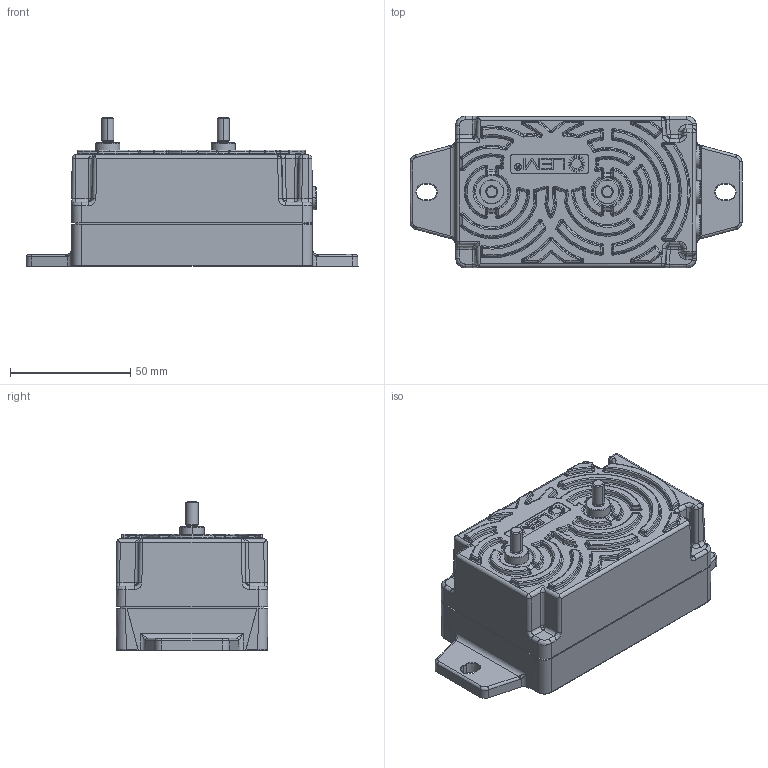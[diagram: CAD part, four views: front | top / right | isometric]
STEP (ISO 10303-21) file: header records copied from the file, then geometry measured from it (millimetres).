
FILE_DESCRIPTION(('CoCreate Modeling STEP Export'),'2;1');
FILE_NAME('DVL 1000_SP5.stp','2013-01-18T13:38:33',(''),(''),'CoCreate Modeling STEP processor for AP214 (Solid Model)','CoCreate Modeling 17.0B 09-Oct-2010 (C) Parametric Technology GmbH','');
FILE_SCHEMA(('AUTOMOTIVE_DESIGN { 1 0 10303 214 1 1 1 1 }'));
Products named in the file (1): BLACKBOX_DVL_ENCOMB_TYPE_D
Bounding box: 137.83 x 63.01 x 61.8 mm (x, y, z)
Volume: 291885.2 mm3; surface area: 35012.8 mm2
Topology: 1 solids, 1 shells, 1831 faces, 4478 edges, 2675 vertices
Faces by surface type: bspline 832, plane 457, cylinder 222, torus 165, cone 118, sphere 25, extrusion 12
Entity records: 114544 total; most frequent: CARTESIAN_POINT 79695, ORIENTED_EDGE 8874, EDGE_CURVE 4437, DIRECTION 4188, VERTEX_POINT 2675, EDGE_LOOP 1902, FACE_OUTER_BOUND 1831, ADVANCED_FACE 1831
